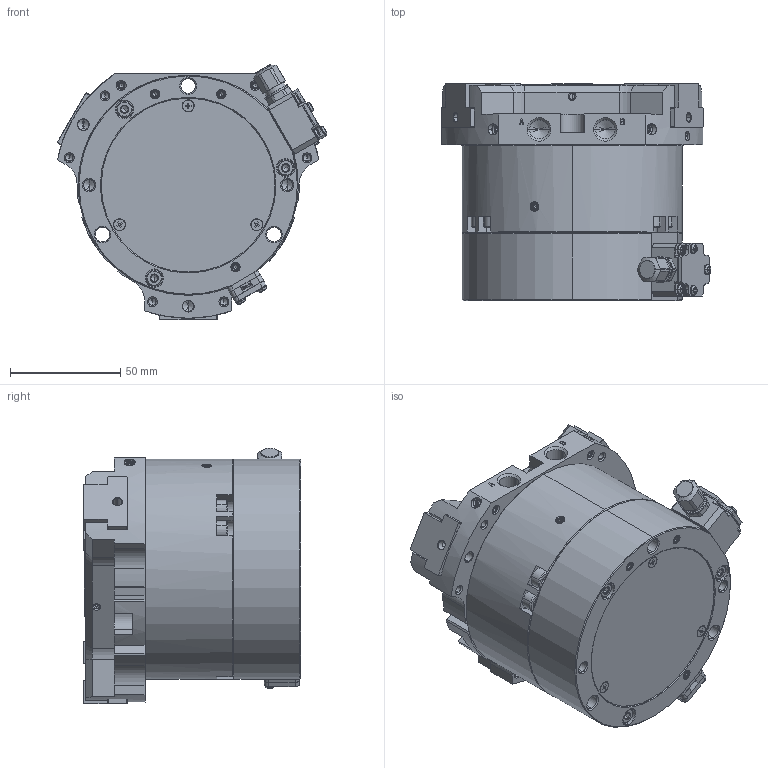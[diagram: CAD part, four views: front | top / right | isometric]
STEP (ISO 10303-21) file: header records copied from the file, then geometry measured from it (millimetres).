
FILE_DESCRIPTION (( 'STEP AP214' ), '1' );
FILE_NAME ('NTS311S-UC.STEP', '2026-03-27T04:40:00', ( '' ), ( '' ), 'SwSTEP 2.0', 'SolidWorks 2022', '' );
FILE_SCHEMA (( 'AUTOMOTIVE_DESIGN' ));
Length unit declared in the file: millimetre
Products named in the file (26): BOLT2^HP-NTS311S; SENSOR COVER^HP-NTS311S; CONNECTOR COVER^HP-NTS311S; SILENCER COVER A^HP-NTS311S; BODY^HP-NTS311S_NTS311S(刻印); WASHER^HP-NTS311S; SCREW4^HP-NTS311S; SCREW3^HP-NTS311S; SILENCER COVER B^HP-NTS311S; REAR BODY^HP-NTS311S; SHEET GASKET A^HP-NTS311S; COVER^HP-NTS311S; SILENSCER^HP-NTS311S; SILENCER COVER C^HP-NTS311S; SCREW1^HP-NTS311S; CAPCON^HP-NTS311S; NTS311S-UC; BOLT1^HP-NTS311S; SENSOR CASE^HP-NTS311S; SET SCREW2^HP-NTS311S; MASTER JAW^HP-NTS311S; SCREW5^HP-NTS311S; CONNECTOR^HP-NTS311S; SHEET GASKET B^HP-NTS311S; SCREW2^HP-NTS311S; SET SCREW1^HP-NTS311S
Assembly tree (52 placements, depth 2):
  NTS311S-UC
    BODY^HP-NTS311S_NTS311S(刻印)
    MASTER JAW^HP-NTS311S  x3
    COVER^HP-NTS311S
    REAR BODY^HP-NTS311S
    SENSOR CASE^HP-NTS311S
    SENSOR COVER^HP-NTS311S
    CONNECTOR^HP-NTS311S
    CONNECTOR COVER^HP-NTS311S
    SHEET GASKET A^HP-NTS311S
    SILENCER COVER A^HP-NTS311S
    SILENCER COVER B^HP-NTS311S
    SILENCER COVER C^HP-NTS311S
    SHEET GASKET B^HP-NTS311S
    BOLT1^HP-NTS311S  x6
    BOLT2^HP-NTS311S  x3
    SCREW1^HP-NTS311S  x3
    SCREW2^HP-NTS311S  x3
    SCREW3^HP-NTS311S  x2
    SCREW4^HP-NTS311S  x4
    SCREW5^HP-NTS311S  x3
    SET SCREW1^HP-NTS311S
    SET SCREW2^HP-NTS311S  x9
    SILENSCER^HP-NTS311S
    CAPCON^HP-NTS311S
    WASHER^HP-NTS311S
Bounding box: 122.68 x 98.7 x 116.14 mm (x, y, z)
Volume: 742446.9 mm3; surface area: 153711.8 mm2
Topology: 52 solids, 52 shells, 3095 faces, 8113 edges, 5154 vertices
Faces by surface type: plane 1820, cone 555, cylinder 539, bspline 179, torus 2
Entity records: 84187 total; most frequent: CARTESIAN_POINT 21714, ORIENTED_EDGE 12870, DIRECTION 11722, EDGE_CURVE 6435, VECTOR 4824, LINE 4824, VERTEX_POINT 4163, AXIS2_PLACEMENT_3D 3449
